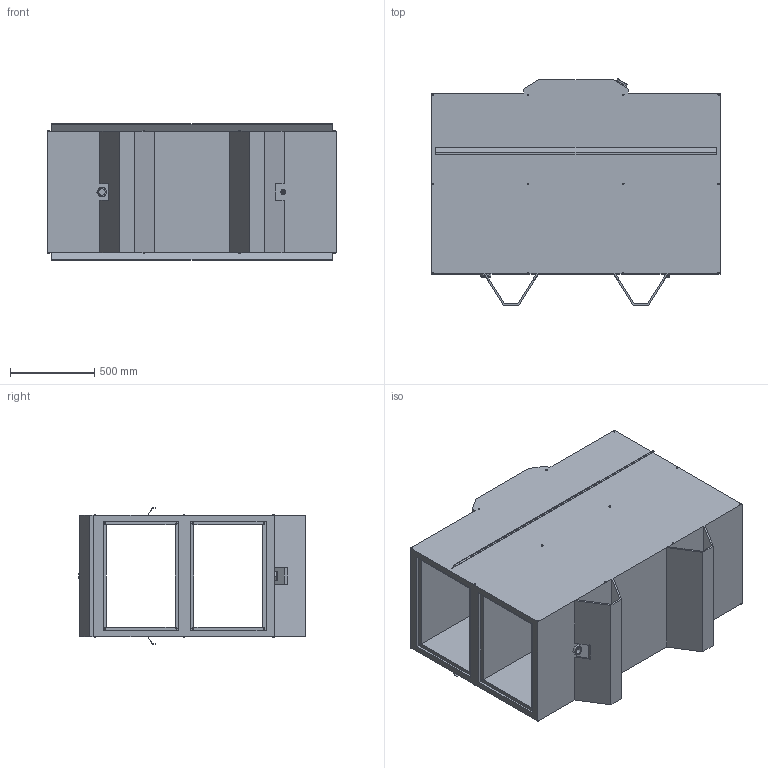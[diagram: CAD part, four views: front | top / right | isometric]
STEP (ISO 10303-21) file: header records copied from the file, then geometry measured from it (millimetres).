
FILE_DESCRIPTION(/* description */ (''),/* implementation_level */ '2;1');
FILE_NAME(/* name */ 'Z:\Output\KWL_EC_1800_S_Pro_WW-08330-006.stp',/* time_stamp */ '2022-07-22T14:17:58+02:00',/* author */ ('Engineering1'),/* organization */ (''),/* preprocessor_version */ 'ST-DEVELOPER v17.2',/* originating_system */ 'Autodesk Inventor 2019',/* authorisation */ '');
FILE_SCHEMA (('AUTOMOTIVE_DESIGN { 1 0 10303 214 3 1 1 }'));
Length unit declared in the file: millimetre
Products named in the file (1): KWL-4
Bounding box: 1714 x 1347.34 x 809 mm (x, y, z)
Volume: 517318711.2 mm3; surface area: 15750981.4 mm2
Topology: 1 solids, 1 shells, 196 faces, 516 edges, 339 vertices
Faces by surface type: plane 135, cylinder 45, cone 16
Full cylindrical faces by diameter (mm): 8 x16, 9 x24, 12.7 x1, 26.7 x1, 38.1 x1, 52.1 x1, 70 x1
Entity records: 6213 total; most frequent: DIRECTION 1045, CARTESIAN_POINT 1036, ORIENTED_EDGE 1000, EDGE_CURVE 500, LINE 349, VECTOR 349, AXIS2_PLACEMENT_3D 348, VERTEX_POINT 339
